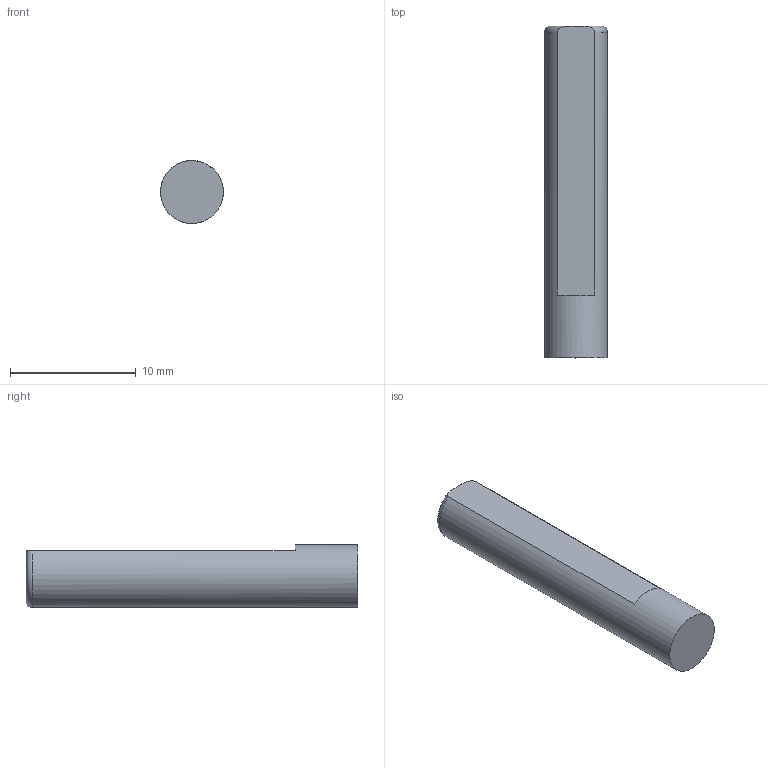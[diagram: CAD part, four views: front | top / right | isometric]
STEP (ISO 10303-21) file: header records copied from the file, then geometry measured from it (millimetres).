
FILE_DESCRIPTION(/* description */ ('STEP AP242 Edition 2','CAx-IF Rec.Pracs.---Representation and Presentation of Product Manufacturing Information (PMI)---4.0---2014-10-13','CAx-IF Rec.Pracs.---3D Tessellated Geometry---0.4---2014-09-14','2;1','CAx-IF Rec.Pracs.---User Defined Attributes---1.5---2016-08-15'),/* implementation_level */ '2;1');
FILE_NAME(/* name */ 'Assembly 1 - Body11 (2)',/* time_stamp */ '2026-09-25T20:07:10Z',/* author */ (''),/* organization */ (''),/* preprocessor_version */ 'ST-DEVELOPER v20',/* originating_system */ 'ONSHAPE BY PTC INC, 1.221',/* authorisation */ ' ');
FILE_SCHEMA (('AP242_MANAGED_MODEL_BASED_3D_ENGINEERING_MIM_LF { 1 0 10303 442 3 1 4 }'));
Length unit declared in the file: metre
Products named in the file (1): Body11
Bounding box: 4.99 x 26.39 x 5 mm (x, y, z)
Volume: 495.6 mm3; surface area: 446.2 mm2
Topology: 1 solids, 1 shells, 6 faces, 12 edges, 8 vertices
Faces by surface type: plane 4, cylinder 1, torus 1
Full cylindrical faces by diameter (mm): 5 x1
Entity records: 174 total; most frequent: CARTESIAN_POINT 34, DIRECTION 26, ORIENTED_EDGE 20, AXIS2_PLACEMENT_3D 11, EDGE_CURVE 10, VERTEX_POINT 7, EDGE_LOOP 7, FACE_BOUND 7
